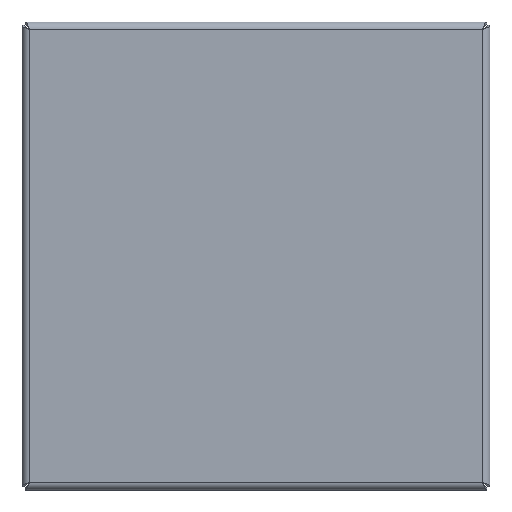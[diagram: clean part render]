
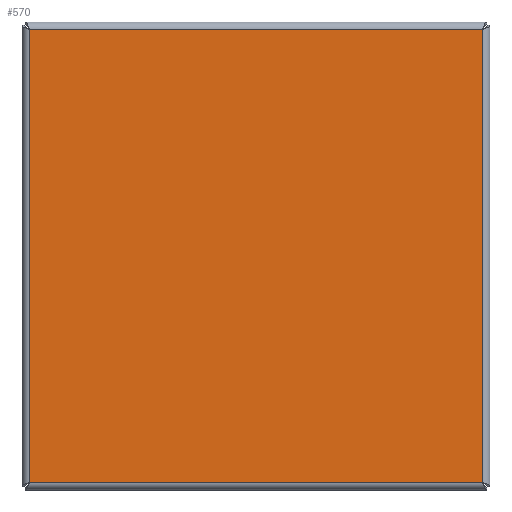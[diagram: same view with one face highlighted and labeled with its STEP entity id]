
A CAD part, top view. The second image highlights one B-rep face of the part: STEP entity #570.
In plain terms, the highlighted planar face has unit normal (0, 0, 1).
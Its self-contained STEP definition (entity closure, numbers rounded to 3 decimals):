
#36=PLANE('',#623);
#82=FACE_OUTER_BOUND('',#120,.T.);
#120=EDGE_LOOP('',(#521,#522,#523,#524));
#150=LINE('',#1297,#210);
#162=LINE('',#1320,#222);
#174=LINE('',#1343,#234);
#186=LINE('',#1366,#246);
#210=VECTOR('',#641,10.);
#222=VECTOR('',#667,10.);
#234=VECTOR('',#693,10.);
#246=VECTOR('',#719,10.);
#258=VERTEX_POINT('',#768);
#264=VERTEX_POINT('',#905);
#270=VERTEX_POINT('',#1042);
#276=VERTEX_POINT('',#1179);
#326=EDGE_CURVE('',#276,#270,#150,.T.);
#338=EDGE_CURVE('',#258,#276,#162,.T.);
#350=EDGE_CURVE('',#270,#264,#174,.T.);
#362=EDGE_CURVE('',#264,#258,#186,.T.);
#521=ORIENTED_EDGE('',*,*,#326,.T.);
#522=ORIENTED_EDGE('',*,*,#350,.T.);
#523=ORIENTED_EDGE('',*,*,#362,.T.);
#524=ORIENTED_EDGE('',*,*,#338,.T.);
#570=ADVANCED_FACE('',(#82),#36,.T.);
#623=AXIS2_PLACEMENT_3D('',#1388,#744,#745);
#641=DIRECTION('',(0.,1.,0.));
#667=DIRECTION('',(1.,0.,0.));
#693=DIRECTION('',(-1.,0.,0.));
#719=DIRECTION('',(0.,-1.,0.));
#744=DIRECTION('center_axis',(0.,0.,1.));
#745=DIRECTION('ref_axis',(1.,0.,0.));
#768=CARTESIAN_POINT('',(-48.43,-48.43,0.));
#905=CARTESIAN_POINT('',(-48.43,48.43,0.));
#1042=CARTESIAN_POINT('',(48.43,48.43,0.));
#1179=CARTESIAN_POINT('',(48.43,-48.43,0.));
#1297=CARTESIAN_POINT('',(48.43,-24.215,0.));
#1320=CARTESIAN_POINT('',(-24.215,-48.43,0.));
#1343=CARTESIAN_POINT('',(24.215,48.43,0.));
#1366=CARTESIAN_POINT('',(-48.43,24.215,0.));
#1388=CARTESIAN_POINT('Origin',(0.,0.,0.));
